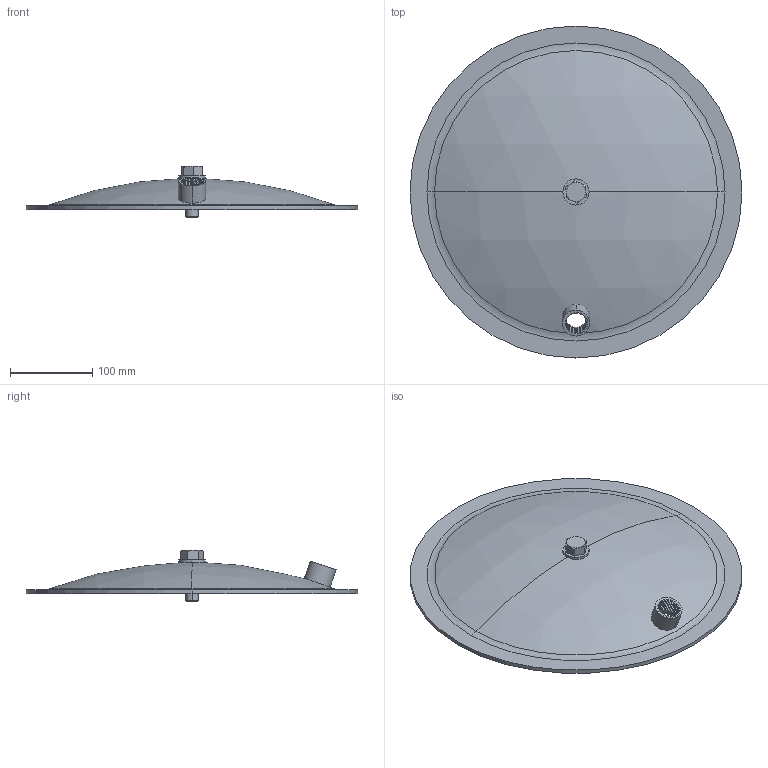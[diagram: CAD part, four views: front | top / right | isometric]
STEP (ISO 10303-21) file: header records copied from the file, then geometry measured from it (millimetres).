
FILE_DESCRIPTION (( 'STEP AP203' ), '1' );
FILE_NAME ('REC16KS.STEP', '2015-01-07T19:55:36', ( '' ), ( '' ), 'SwSTEP 2.0', 'SolidWorks 2014', '' );
FILE_SCHEMA (( 'CONFIG_CONTROL_DESIGN' ));
Length unit declared in the file: inch
Products named in the file (1): REC16KS
Bounding box: 403.23 x 403.23 x 62.08 mm (x, y, z)
Volume: 617930.9 mm3; surface area: 279415.9 mm2
Topology: 4 solids, 4 shells, 70 faces, 167 edges, 106 vertices
Faces by surface type: cylinder 36, plane 16, cone 8, torus 4, sphere 4, bspline 2
Entity records: 3626 total; most frequent: CARTESIAN_POINT 2034, ORIENTED_EDGE 334, DIRECTION 301, EDGE_CURVE 167, AXIS2_PLACEMENT_3D 124, VERTEX_POINT 106, EDGE_LOOP 79, FACE_OUTER_BOUND 70
